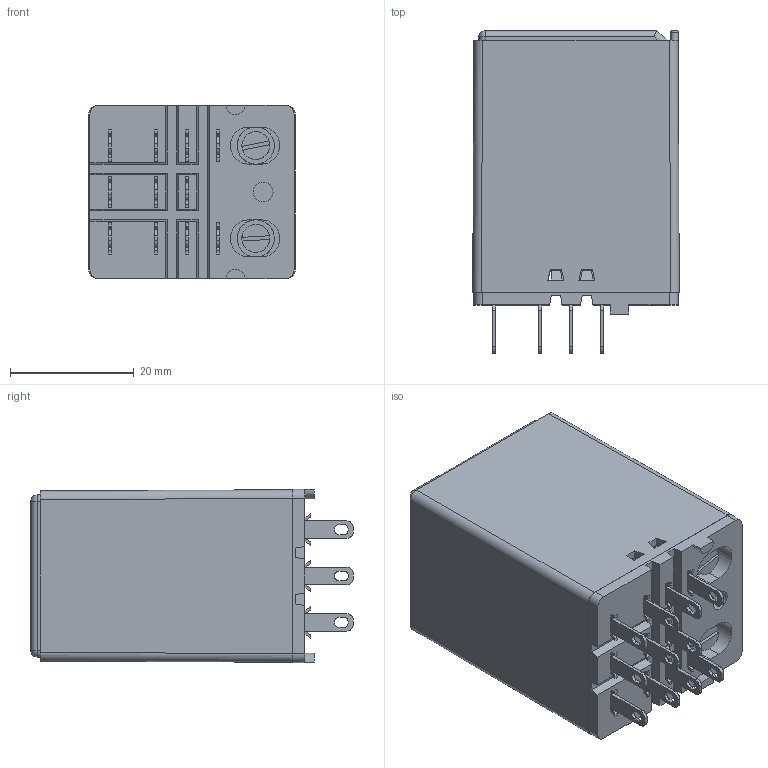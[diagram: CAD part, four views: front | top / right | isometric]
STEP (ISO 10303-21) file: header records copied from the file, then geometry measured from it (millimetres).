
FILE_DESCRIPTION(('STEP AP214'), '1');
FILE_NAME('Ðåëå ÐÏ21Ì-003', '', ('UNSPECIFIED'), ('UNSPECIFIED'), 'ASCON STEP Converter 1.6', 'ASCON Math Kernel', '');
FILE_SCHEMA(('AUTOMOTIVE_DESIGN { 1 0 10303 214 3 1 1}'));
Length unit declared in the file: millimetre
Bounding box: 33.4 x 52.1 x 28 mm (x, y, z)
Volume: 10395.5 mm3; surface area: 15375.1 mm2
Topology: 1 solids, 1 shells, 702 faces, 1902 edges, 1240 vertices
Faces by surface type: plane 542, cylinder 146, bspline 8, cone 2, torus 2, sphere 2
Full cylindrical faces by diameter (mm): 1 x5, 2.5 x2, 2.9 x2, 3.2 x1, 4.5 x2, 6 x2
Entity records: 28123 total; most frequent: CARTESIAN_POINT 4497, ORIENTED_EDGE 3768, DIRECTION 3580, EDGE_CURVE 1884, LINE 1554, VECTOR 1554, VERTEX_POINT 1240, AXIS2_PLACEMENT_3D 1013
